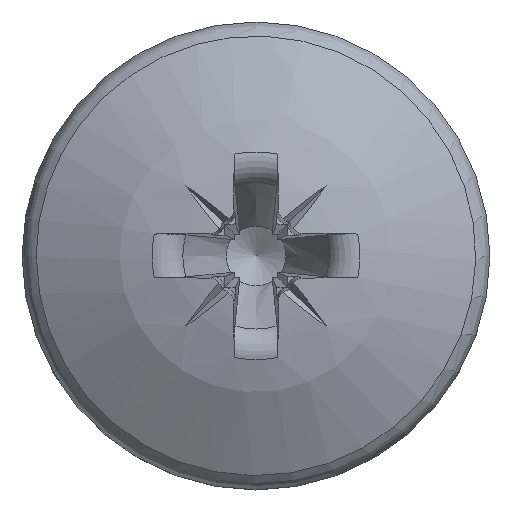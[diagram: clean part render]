
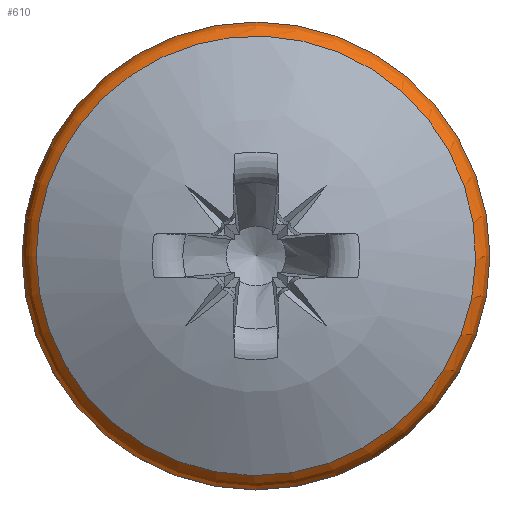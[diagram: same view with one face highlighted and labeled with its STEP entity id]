
A CAD part, top view. The second image highlights one B-rep face of the part: STEP entity #610.
In plain terms, the highlighted toroidal (fillet/blend) face has major radius 4.55 mm and minor radius 0.7 mm.
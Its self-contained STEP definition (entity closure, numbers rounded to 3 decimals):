
#516=TOROIDAL_SURFACE('',#2830,4.55,0.7);
#532=FACE_BOUND('',#964,.T.);
#533=FACE_BOUND('',#965,.T.);
#610=ADVANCED_FACE('',(#532,#533),#516,.T.);
#964=EDGE_LOOP('',(#1481));
#965=EDGE_LOOP('',(#1482));
#1076=CIRCLE('',#2715,4.932);
#1101=CIRCLE('',#2745,5.25);
#1481=ORIENTED_EDGE('',*,*,#2229,.F.);
#1482=ORIENTED_EDGE('',*,*,#2188,.F.);
#1955=VERTEX_POINT('',#5599);
#1994=VERTEX_POINT('',#5858);
#2188=EDGE_CURVE('',#1955,#1955,#1076,.T.);
#2229=EDGE_CURVE('',#1994,#1994,#1101,.T.);
#2715=AXIS2_PLACEMENT_3D('',#5598,#2848,#2849);
#2745=AXIS2_PLACEMENT_3D('',#5857,#2909,#2910);
#2830=AXIS2_PLACEMENT_3D('',#6289,#3139,#3140);
#2848=DIRECTION('',(0.,0.,1.));
#2849=DIRECTION('',(-1.,0.,0.));
#2909=DIRECTION('',(0.,0.,-1.));
#2910=DIRECTION('',(-1.,0.,0.));
#3139=DIRECTION('',(0.,0.,-1.));
#3140=DIRECTION('',(-1.,0.,0.));
#5598=CARTESIAN_POINT('',(0.,0.,2.737));
#5599=CARTESIAN_POINT('',(-4.932,0.,2.737));
#5857=CARTESIAN_POINT('',(0.,0.,2.15));
#5858=CARTESIAN_POINT('',(-5.25,0.,2.15));
#6289=CARTESIAN_POINT('',(0.,0.,2.15));
